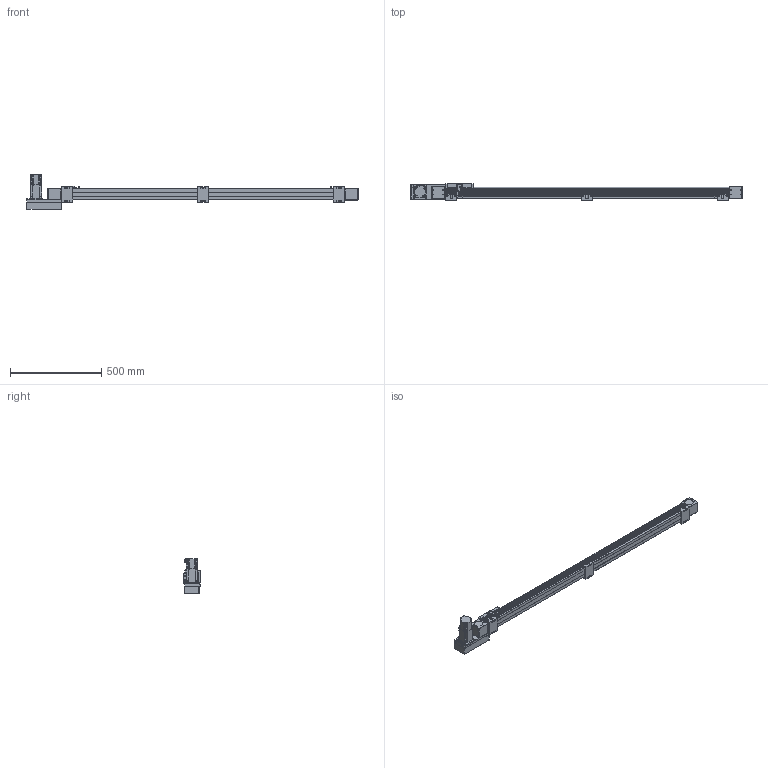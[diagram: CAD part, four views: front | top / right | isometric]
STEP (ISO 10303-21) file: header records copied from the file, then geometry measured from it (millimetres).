
FILE_DESCRIPTION(/* description */ ('STEP AP214'),/* implementation_level */ '2;1');
FILE_NAME(/* name */ 'SK60-P13-S1400-L-T40-C1-N(0)',/* time_stamp */ '2023-04-06T04:10:43+02:00',/* author */ ('License CC BY-ND 4.0'),/* organization */ ('CADENAS'),/* preprocessor_version */ 'ST-DEVELOPER v19.3',/* originating_system */ 'PARTsolutions',/* authorisation */ ' ');
FILE_SCHEMA (('AUTOMOTIVE_DESIGN {1 0 10303 214 3 1 1}'));
Length unit declared in the file: millimetre
Products named in the file (10): SK60-P13-S1400-L-T40-C1-N(0); PSC140-sensor; SK60-S450_seat; SK60-S450-BL-C1_slider; SK60_body3; SK60_body6; SK60-BL_body2; T40-p1; SK60-L_fb; SK60-S1400-L-C1_body
Assembly tree (17 placements, depth 2):
  SK60-P13-S1400-L-T40-C1-N(0)
    PSC140-sensor  x3
    SK60-S450_seat  x3
    SK60-S450-BL-C1_slider
    SK60_body3  x3
    SK60_body6  x2
    SK60-BL_body2  x2
    T40-p1
    SK60-L_fb
    SK60-S1400-L-C1_body
Bounding box: 1820.5 x 90 x 189.7 mm (x, y, z)
Volume: 6967335.1 mm3; surface area: 849359.5 mm2
Topology: 17 solids, 17 shells, 854 faces, 2146 edges, 1413 vertices
Faces by surface type: plane 548, cylinder 278, cone 26, torus 2
Full cylindrical faces by diameter (mm): 2.8 x3, 3.3 x4, 4 x2, 4.5 x30, 4.6 x3, 4.917 x20, 5 x6, 5.478 x4, 5.5 x23, 6.5 x6, 7 x2, 8 x4, 8.5 x4, 9.988 x4, 10 x12, 14 x1, 47 x3, 50 x2
Entity records: 18663 total; most frequent: DIRECTION 3186, CARTESIAN_POINT 3151, ORIENTED_EDGE 2940, EDGE_CURVE 1470, AXIS2_PLACEMENT_3D 1069, LINE 1048, VECTOR 1048, VERTEX_POINT 1034
